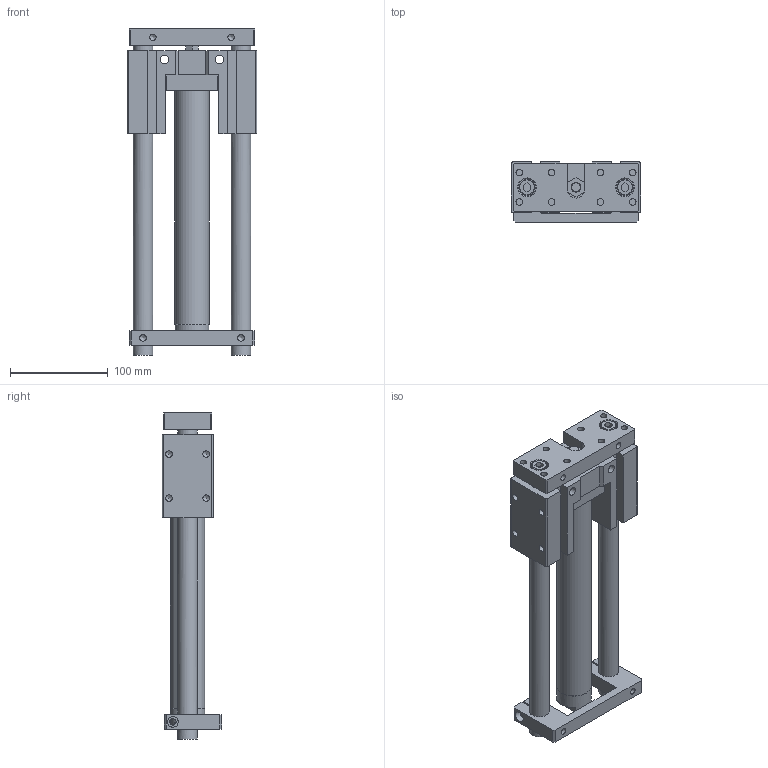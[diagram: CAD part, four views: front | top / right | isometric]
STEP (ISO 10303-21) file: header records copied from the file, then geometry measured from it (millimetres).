
FILE_DESCRIPTION((''),'2;1');
FILE_NAME('I:\3D電子目錄\氣缸\TMB(U)\TMB(U)\TMB(U)32\TMB(U)32x200.stp','2007-10-05T11:18:14',('Administrator'),(''),'Autodesk Inventor 11','Autodesk Inventor 11','');
FILE_SCHEMA(('AUTOMOTIVE_DESIGN { 1 0 10303 214 1 1 1 1 }'));
Length unit declared in the file: millimetre
Products named in the file (1): TMB(U)32
Bounding box: 132 x 61 x 333 mm (x, y, z)
Volume: 928086.4 mm3; surface area: 154758.6 mm2
Topology: 1 solids, 1 shells, 198 faces, 514 edges, 338 vertices
Faces by surface type: plane 117, bspline 41, cylinder 23, cone 15, torus 2
Full cylindrical faces by diameter (mm): 6.5 x2, 6.647 x6, 10 x1, 11 x1, 16 x2, 18 x2, 20 x2, 35 x2
Entity records: 6000 total; most frequent: CARTESIAN_POINT 1554, DIRECTION 850, ORIENTED_EDGE 842, EDGE_CURVE 421, EDGE_LOOP 320, VERTEX_POINT 313, VECTOR 300, LINE 300
